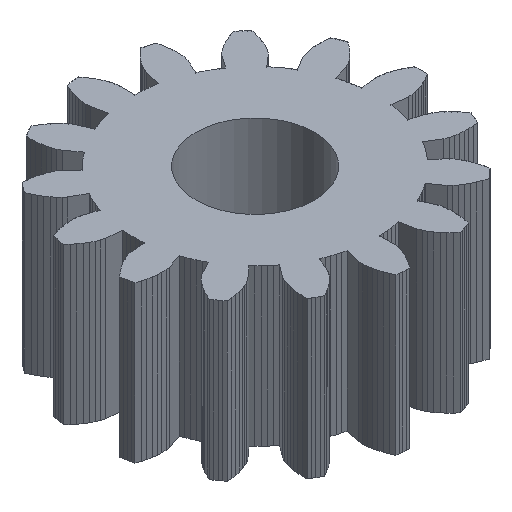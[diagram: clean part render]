
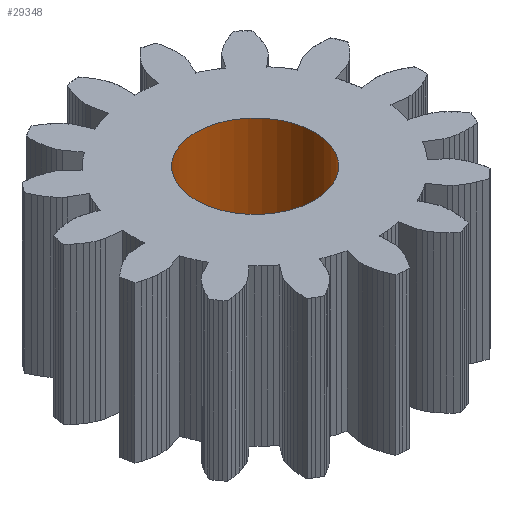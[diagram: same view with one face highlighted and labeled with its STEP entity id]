
A CAD part, isometric view. The second image highlights one B-rep face of the part: STEP entity #29348.
In plain terms, the highlighted cylindrical face has radius 3.025 mm (diameter 6.05 mm), a full revolution.
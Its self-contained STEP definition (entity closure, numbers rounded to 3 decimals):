
#72 = PLANE('',#73);
#73 = AXIS2_PLACEMENT_3D('',#74,#75,#76);
#74 = CARTESIAN_POINT('',(0.,0.,30.));
#75 = DIRECTION('',(0.,0.,1.));
#76 = DIRECTION('',(1.,0.,-0.));
#126 = PLANE('',#127);
#127 = AXIS2_PLACEMENT_3D('',#128,#129,#130);
#128 = CARTESIAN_POINT('',(0.,0.,22.));
#129 = DIRECTION('',(0.,0.,1.));
#130 = DIRECTION('',(1.,0.,-0.));
#10702 = EDGE_CURVE('',#10703,#10703,#10705,.T.);
#10703 = VERTEX_POINT('',#10704);
#10704 = CARTESIAN_POINT('',(3.025,0.,22.));
#10705 = SURFACE_CURVE('',#10706,(#10711,#10722),.PCURVE_S1.);
#10706 = CIRCLE('',#10707,3.025);
#10707 = AXIS2_PLACEMENT_3D('',#10708,#10709,#10710);
#10708 = CARTESIAN_POINT('',(0.,0.,22.));
#10709 = DIRECTION('',(0.,0.,-1.));
#10710 = DIRECTION('',(1.,0.,0.));
#10711 = PCURVE('',#126,#10712);
#10712 = DEFINITIONAL_REPRESENTATION('',(#10713),#10721);
#10713 = ( BOUNDED_CURVE() B_SPLINE_CURVE(2,(#10714,#10715,#10716,#10717
    ,#10718,#10719,#10720),.UNSPECIFIED.,.T.,.F.) 
B_SPLINE_CURVE_WITH_KNOTS((1,2,2,2,2,1),(-2.094,0.,
    2.094,4.189,6.283,8.378),
.UNSPECIFIED.) CURVE() GEOMETRIC_REPRESENTATION_ITEM() 
RATIONAL_B_SPLINE_CURVE((1.,0.5,1.,0.5,1.,0.5,1.)) REPRESENTATION_ITEM(
  '') );
#10714 = CARTESIAN_POINT('',(3.025,0.));
#10715 = CARTESIAN_POINT('',(3.025,-5.239));
#10716 = CARTESIAN_POINT('',(-1.513,-2.62));
#10717 = CARTESIAN_POINT('',(-6.05,0.));
#10718 = CARTESIAN_POINT('',(-1.513,2.62));
#10719 = CARTESIAN_POINT('',(3.025,5.239));
#10720 = CARTESIAN_POINT('',(3.025,0.));
#10721 = ( GEOMETRIC_REPRESENTATION_CONTEXT(2) 
PARAMETRIC_REPRESENTATION_CONTEXT() REPRESENTATION_CONTEXT('2D SPACE',''
  ) );
#10722 = PCURVE('',#10723,#10728);
#10723 = CYLINDRICAL_SURFACE('',#10724,3.025);
#10724 = AXIS2_PLACEMENT_3D('',#10725,#10726,#10727);
#10725 = CARTESIAN_POINT('',(0.,0.,21.5));
#10726 = DIRECTION('',(-0.,-0.,-1.));
#10727 = DIRECTION('',(1.,0.,0.));
#10728 = DEFINITIONAL_REPRESENTATION('',(#10729),#10733);
#10729 = LINE('',#10730,#10731);
#10730 = CARTESIAN_POINT('',(-6.283,-0.5));
#10731 = VECTOR('',#10732,1.);
#10732 = DIRECTION('',(1.,-0.));
#10733 = ( GEOMETRIC_REPRESENTATION_CONTEXT(2) 
PARAMETRIC_REPRESENTATION_CONTEXT() REPRESENTATION_CONTEXT('2D SPACE',''
  ) );
#19297 = EDGE_CURVE('',#19298,#19298,#19300,.T.);
#19298 = VERTEX_POINT('',#19299);
#19299 = CARTESIAN_POINT('',(3.025,0.,30.));
#19300 = SURFACE_CURVE('',#19301,(#19306,#19317),.PCURVE_S1.);
#19301 = CIRCLE('',#19302,3.025);
#19302 = AXIS2_PLACEMENT_3D('',#19303,#19304,#19305);
#19303 = CARTESIAN_POINT('',(0.,0.,30.));
#19304 = DIRECTION('',(0.,0.,-1.));
#19305 = DIRECTION('',(1.,0.,0.));
#19306 = PCURVE('',#72,#19307);
#19307 = DEFINITIONAL_REPRESENTATION('',(#19308),#19316);
#19308 = ( BOUNDED_CURVE() B_SPLINE_CURVE(2,(#19309,#19310,#19311,#19312
    ,#19313,#19314,#19315),.UNSPECIFIED.,.T.,.F.) 
B_SPLINE_CURVE_WITH_KNOTS((1,2,2,2,2,1),(-2.094,0.,
    2.094,4.189,6.283,8.378),
.UNSPECIFIED.) CURVE() GEOMETRIC_REPRESENTATION_ITEM() 
RATIONAL_B_SPLINE_CURVE((1.,0.5,1.,0.5,1.,0.5,1.)) REPRESENTATION_ITEM(
  '') );
#19309 = CARTESIAN_POINT('',(3.025,0.));
#19310 = CARTESIAN_POINT('',(3.025,-5.239));
#19311 = CARTESIAN_POINT('',(-1.513,-2.62));
#19312 = CARTESIAN_POINT('',(-6.05,0.));
#19313 = CARTESIAN_POINT('',(-1.513,2.62));
#19314 = CARTESIAN_POINT('',(3.025,5.239));
#19315 = CARTESIAN_POINT('',(3.025,0.));
#19316 = ( GEOMETRIC_REPRESENTATION_CONTEXT(2) 
PARAMETRIC_REPRESENTATION_CONTEXT() REPRESENTATION_CONTEXT('2D SPACE',''
  ) );
#19317 = PCURVE('',#10723,#19318);
#19318 = DEFINITIONAL_REPRESENTATION('',(#19319),#19323);
#19319 = LINE('',#19320,#19321);
#19320 = CARTESIAN_POINT('',(-6.283,-8.5));
#19321 = VECTOR('',#19322,1.);
#19322 = DIRECTION('',(1.,-0.));
#19323 = ( GEOMETRIC_REPRESENTATION_CONTEXT(2) 
PARAMETRIC_REPRESENTATION_CONTEXT() REPRESENTATION_CONTEXT('2D SPACE',''
  ) );
#29348 = ADVANCED_FACE('',(#29349),#10723,.F.);
#29349 = FACE_BOUND('',#29350,.T.);
#29350 = EDGE_LOOP('',(#29351,#29352,#29373,#29374));
#29351 = ORIENTED_EDGE('',*,*,#10702,.T.);
#29352 = ORIENTED_EDGE('',*,*,#29353,.T.);
#29353 = EDGE_CURVE('',#10703,#19298,#29354,.T.);
#29354 = SEAM_CURVE('',#29355,(#29359,#29366),.PCURVE_S1.);
#29355 = LINE('',#29356,#29357);
#29356 = CARTESIAN_POINT('',(3.025,0.,21.5));
#29357 = VECTOR('',#29358,1.);
#29358 = DIRECTION('',(0.,0.,1.));
#29359 = PCURVE('',#10723,#29360);
#29360 = DEFINITIONAL_REPRESENTATION('',(#29361),#29365);
#29361 = LINE('',#29362,#29363);
#29362 = CARTESIAN_POINT('',(-6.283,0.));
#29363 = VECTOR('',#29364,1.);
#29364 = DIRECTION('',(-0.,-1.));
#29365 = ( GEOMETRIC_REPRESENTATION_CONTEXT(2) 
PARAMETRIC_REPRESENTATION_CONTEXT() REPRESENTATION_CONTEXT('2D SPACE',''
  ) );
#29366 = PCURVE('',#10723,#29367);
#29367 = DEFINITIONAL_REPRESENTATION('',(#29368),#29372);
#29368 = LINE('',#29369,#29370);
#29369 = CARTESIAN_POINT('',(-0.,0.));
#29370 = VECTOR('',#29371,1.);
#29371 = DIRECTION('',(-0.,-1.));
#29372 = ( GEOMETRIC_REPRESENTATION_CONTEXT(2) 
PARAMETRIC_REPRESENTATION_CONTEXT() REPRESENTATION_CONTEXT('2D SPACE',''
  ) );
#29373 = ORIENTED_EDGE('',*,*,#19297,.F.);
#29374 = ORIENTED_EDGE('',*,*,#29353,.F.);
